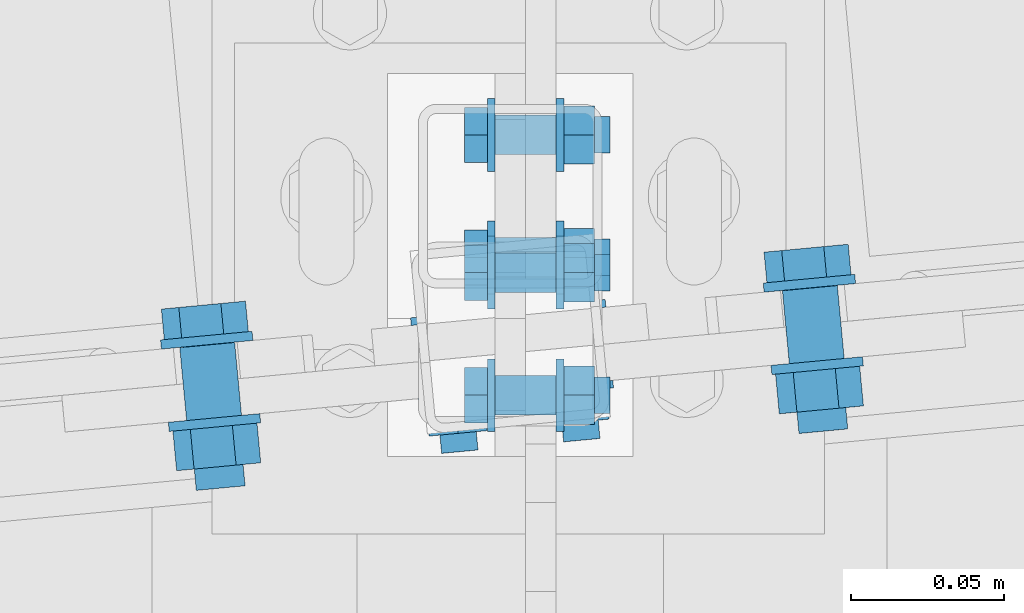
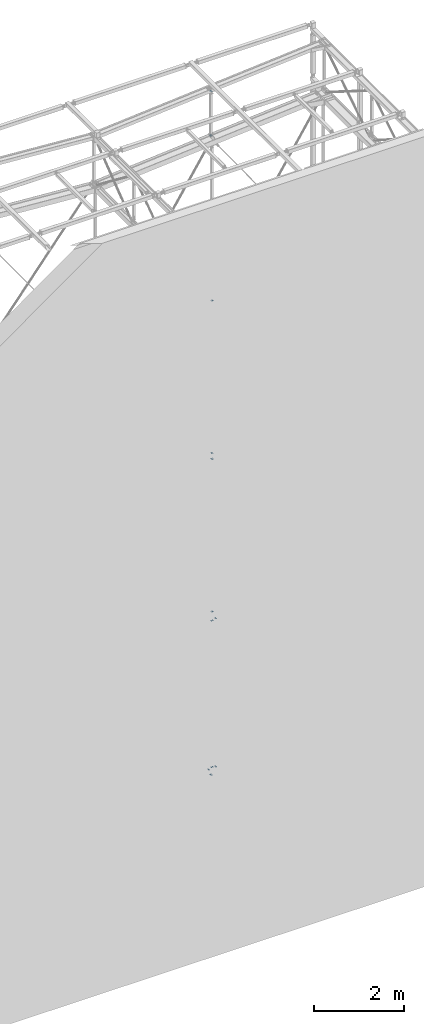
# One storey, part 263 of 271: 12 mechanical fasteners, 8 elements without a shape of their own.
"""IFC2X3 building model written with IfcOpenShell, lengths in millimetres."""

from ifc_helpers import new_model, si_unit, frame, origin_with_axes, origin_2d_with_axis, place, context, subcontext, project, spatial, polyline, circle, outline, extrude, source, transform, mapped, material, type_object, element, aggregate, save


model = new_model("IFC2X3")

# Units and contexts
model_context = context("Model", 3, precision=1e-05, world=origin_with_axes())
body_context = subcontext(model_context, "Body", "Model", "MODEL_VIEW")
ifc_project = project(units=[si_unit("LENGTHUNIT", "METRE", prefix="MILLI"), si_unit("AREAUNIT", "SQUARE_METRE"), si_unit("VOLUMEUNIT", "CUBIC_METRE"), si_unit("MASSUNIT", "GRAM", prefix="KILO"), si_unit("TIMEUNIT", "SECOND"), si_unit("PLANEANGLEUNIT", "RADIAN"), si_unit("SOLIDANGLEUNIT", "STERADIAN"), si_unit("THERMODYNAMICTEMPERATUREUNIT", "DEGREE_CELSIUS"), si_unit("LUMINOUSINTENSITYUNIT", "LUMEN")], contexts=[model_context])

# Site, building, storey
site_placement = place(None, origin_with_axes())
site = spatial("IfcSite", under=ifc_project, at=site_placement, Name="Undefined", CompositionType="ELEMENT")
building_placement = place(site_placement, origin_with_axes())
building = spatial("IfcBuilding", under=site, at=building_placement, Name="Undefined", CompositionType="ELEMENT")
storey_placement = place(building_placement, origin_with_axes())
storey = spatial("IfcBuildingStorey", under=building, at=storey_placement, Name="Undefined", CompositionType="ELEMENT", Elevation=0.0)

# Assembly, mechanical fastener
assembly_1_placement = place(storey_placement, origin_with_axes())
assembly_1 = element("IfcElementAssembly", 1, at=assembly_1_placement, inside=storey, AssemblyPlace="NOTDEFINED", PredefinedType="RIGID_FRAME")
ifc_material = material(Name="Undefined")
mechanical_fastener_type = type_object("IfcMechanicalFastenerType", Name="Bolt assembly")
shared_shape_1 = source(origin_with_axes(), body_context, "Body", "SweptSolid", [
    extrude(circle(Radius=6.5, at=origin_2d_with_axis()), frame((0.0, -5.1, 0.0), z_axis=(0.0, 1.0, 0.0), x_axis=(1.0, 0.0, 0.0)), (0.0, 0.0, 1.0), 10.1),
    extrude(circle(Radius=6.5, at=origin_2d_with_axis()), frame((0.0, -14.9000000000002, 0.0), z_axis=(0.0, 1.0, 0.0), x_axis=(1.0, 0.0, 0.0)), (0.0, 0.0, 1.0), 10.0),
    extrude(outline(polyline([(10.39230484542, 0.0), (5.19615242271, 9.00000000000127), (-5.19615242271, 9.00000000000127), (-10.39230484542, 0.0), (-5.19615242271, -9.00000000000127), (5.19615242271, -9.00000000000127), (10.39230484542, 0.0)])), frame((0.0, -25.0000000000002, 0.0), z_axis=(0.0, 1.0, 0.0), x_axis=(1.0, 0.0, 0.0)), (0.0, 0.0, 1.0), 7.5),
    extrude(circle(Radius=6.0, at=origin_2d_with_axis()), frame((0.0, -17.5000000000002, 0.0), z_axis=(0.0, 1.0, 0.0), x_axis=(1.0, 0.0, 0.0)), (0.0, 0.0, 1.0), 40.0),
    extrude(circle(Radius=12.0, at=origin_2d_with_axis()), frame((0.0, -17.5000000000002, 0.0), z_axis=(0.0, 1.0, 0.0), x_axis=(1.0, 0.0, 0.0)), (0.0, 0.0, 1.0), 2.5),
    extrude(circle(Radius=12.0, at=origin_2d_with_axis()), frame((0.0, 5.00000000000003, 0.0), z_axis=(0.0, 1.0, 0.0), x_axis=(1.0, 0.0, 0.0)), (0.0, 0.0, 1.0), 2.5),
    extrude(outline(polyline([(10.96965511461, 0.0), (5.484827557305, 9.50000000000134), (-5.484827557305, 9.50000000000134), (-10.96965511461, 0.0), (-5.484827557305, -9.50000000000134), (5.484827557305, -9.50000000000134), (10.96965511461, 0.0)])), frame((0.0, 7.50000000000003, 0.0), z_axis=(0.0, 1.0, 0.0), x_axis=(1.0, 0.0, 0.0)), (0.0, 0.0, 1.0), 10.0),
])
mechanical_fastener_1_placement = place(assembly_1_placement, frame((9538.37568709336, 4050.32498425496, 19926.399999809), z_axis=(0.0, -1.0, 0.0), x_axis=(0.0, 0.0, -1.0)))
mechanical_fastener_1 = element("IfcMechanicalFastener", 2, at=mechanical_fastener_1_placement, type_object=mechanical_fastener_type, material=ifc_material, Name="Bolt assembly", NominalDiameter=12.0, NominalLength=40.0, context=body_context, shape_type="MappedRepresentation", body=[
    mapped(shared_shape_1, transform((0.0, 0.0, -20.0))),
    mapped(shared_shape_1, transform((0.0, 0.0, 20.0))),
])

assembly_2_placement = place(storey_placement, origin_with_axes())
assembly_2 = element("IfcElementAssembly", 3, at=assembly_2_placement, inside=storey, AssemblyPlace="NOTDEFINED", PredefinedType="RIGID_FRAME")
mechanical_fastener_2_placement = place(assembly_2_placement, frame((9538.37568709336, 4050.32498425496, 1285.74999995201), z_axis=(0.0, -1.0, 0.0), x_axis=(0.0, 0.0, -1.0)))
mechanical_fastener_2 = element("IfcMechanicalFastener", 4, at=mechanical_fastener_2_placement, type_object=mechanical_fastener_type, material=ifc_material, Name="Bolt assembly", NominalDiameter=12.0, NominalLength=40.0, context=body_context, shape_type="MappedRepresentation", body=[
    mapped(shared_shape_1, transform((0.0, 0.0, -20.0))),
    mapped(shared_shape_1, transform((0.0, 0.0, 20.0))),
])
aggregate(assembly_2, [mechanical_fastener_2])

# Mechanical fastener
mechanical_fastener_3_placement = place(assembly_1_placement, frame((9538.37568709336, 4050.32498425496, 18722.949999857), z_axis=(0.0, 1.0, 0.0), x_axis=(0.0, 0.0, 1.0)))
mechanical_fastener_3 = element("IfcMechanicalFastener", 5, at=mechanical_fastener_3_placement, type_object=mechanical_fastener_type, material=ifc_material, Name="Bolt assembly", NominalDiameter=12.0, NominalLength=40.0, context=body_context, shape_type="MappedRepresentation", body=[
    mapped(shared_shape_1, transform((0.0, 0.0, -20.0))),
    mapped(shared_shape_1, transform((0.0, 0.0, 20.0))),
])

aggregate(assembly_1, [mechanical_fastener_1, mechanical_fastener_3])

# Assembly, mechanical fastener
assembly_3_placement = place(storey_placement, origin_with_axes())
assembly_3 = element("IfcElementAssembly", 6, at=assembly_3_placement, inside=storey, AssemblyPlace="NOTDEFINED", PredefinedType="RIGID_FRAME")
mechanical_fastener_4_placement = place(assembly_3_placement, frame((9538.37568709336, 4005.32498425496, 5762.94999985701), z_axis=(0.0, 1.0, 0.0), x_axis=(0.0, 0.0, 1.0)))
mechanical_fastener_4 = element("IfcMechanicalFastener", 7, at=mechanical_fastener_4_placement, type_object=mechanical_fastener_type, material=ifc_material, Name="Bolt assembly", NominalDiameter=12.0, NominalLength=40.0, context=body_context, shape_type="MappedRepresentation", body=[
    mapped(shared_shape_1, transform((0.0, 0.0, -20.0))),
    mapped(shared_shape_1, transform((0.0, 0.0, 20.0))),
])

# Assembly, mechanical fasteners
assembly_4_placement = place(storey_placement, origin_with_axes())
assembly_4 = element("IfcElementAssembly", 8, at=assembly_4_placement, inside=storey, AssemblyPlace="NOTDEFINED", PredefinedType="RIGID_FRAME")
mechanical_fastener_5_placement = place(assembly_4_placement, frame((9538.37568709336, 4005.32498425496, 14245.749999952), z_axis=(0.0, -1.0, 0.0), x_axis=(0.0, 0.0, -1.0)))
mechanical_fastener_5 = element("IfcMechanicalFastener", 9, at=mechanical_fastener_5_placement, type_object=mechanical_fastener_type, material=ifc_material, Name="Bolt assembly", NominalDiameter=12.0, NominalLength=40.0, context=body_context, shape_type="MappedRepresentation", body=[
    mapped(shared_shape_1, transform((0.0, 0.0, -20.0))),
    mapped(shared_shape_1, transform((0.0, 0.0, 20.0))),
])
mechanical_fastener_6_placement = place(assembly_4_placement, frame((9538.37568709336, 4005.32498425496, 10082.949999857), z_axis=(0.0, 1.0, 0.0), x_axis=(0.0, 0.0, 1.0)))
mechanical_fastener_6 = element("IfcMechanicalFastener", 10, at=mechanical_fastener_6_placement, type_object=mechanical_fastener_type, material=ifc_material, Name="Bolt assembly", NominalDiameter=12.0, NominalLength=40.0, context=body_context, shape_type="MappedRepresentation", body=[
    mapped(shared_shape_1, transform((0.0, 0.0, -20.0))),
    mapped(shared_shape_1, transform((0.0, 0.0, 20.0))),
])
aggregate(assembly_4, [mechanical_fastener_5, mechanical_fastener_6])

# Mechanical fastener
mechanical_fastener_7_placement = place(assembly_3_placement, frame((9538.37568709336, 4005.32498425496, 9925.74999995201), z_axis=(0.0, -1.0, 0.0), x_axis=(0.0, 0.0, -1.0)))
mechanical_fastener_7 = element("IfcMechanicalFastener", 11, at=mechanical_fastener_7_placement, type_object=mechanical_fastener_type, material=ifc_material, Name="Bolt assembly", NominalDiameter=12.0, NominalLength=40.0, context=body_context, shape_type="MappedRepresentation", body=[
    mapped(shared_shape_1, transform((0.0, 0.0, -20.0))),
    mapped(shared_shape_1, transform((0.0, 0.0, 20.0))),
])

aggregate(assembly_3, [mechanical_fastener_4, mechanical_fastener_7])

# Assembly, mechanical fasteners
assembly_5_placement = place(storey_placement, origin_with_axes())
assembly_5 = element("IfcElementAssembly", 12, at=assembly_5_placement, inside=storey, AssemblyPlace="NOTDEFINED", PredefinedType="RIGID_FRAME")
shared_shape_2 = source(origin_with_axes(), body_context, "Body", "SweptSolid", [
    extrude(circle(Radius=6.5, at=origin_2d_with_axis()), frame((0.0, -6.1, 0.0), z_axis=(0.0, 1.0, 0.0), x_axis=(1.0, 0.0, 0.0)), (0.0, 0.0, 1.0), 12.1),
    extrude(circle(Radius=6.5, at=origin_2d_with_axis()), frame((0.0, -17.9, 0.0), z_axis=(0.0, 1.0, 0.0), x_axis=(1.0, 0.0, 0.0)), (0.0, 0.0, 1.0), 12.0),
    extrude(outline(polyline([(10.39230484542, 0.0), (5.19615242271, 9.00000000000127), (-5.19615242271, 9.00000000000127), (-10.39230484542, 0.0), (-5.19615242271, -9.00000000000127), (5.19615242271, -9.00000000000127), (10.39230484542, 0.0)])), frame((0.0, -28.0, 0.0), z_axis=(0.0, 1.0, 0.0), x_axis=(1.0, 0.0, 0.0)), (0.0, 0.0, 1.0), 7.5),
    extrude(circle(Radius=6.0, at=origin_2d_with_axis()), frame((0.0, -20.5, 0.0), z_axis=(0.0, 1.0, 0.0), x_axis=(1.0, 0.0, 0.0)), (0.0, 0.0, 1.0), 45.0),
    extrude(circle(Radius=12.0, at=origin_2d_with_axis()), frame((0.0, -20.5, 0.0), z_axis=(0.0, 1.0, 0.0), x_axis=(1.0, 0.0, 0.0)), (0.0, 0.0, 1.0), 2.5),
    extrude(circle(Radius=12.0, at=origin_2d_with_axis()), frame((0.0, 6.0, 0.0), z_axis=(0.0, 1.0, 0.0), x_axis=(1.0, 0.0, 0.0)), (0.0, 0.0, 1.0), 2.5),
    extrude(outline(polyline([(10.96965511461, 0.0), (5.484827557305, 9.50000000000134), (-5.484827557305, 9.50000000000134), (-10.96965511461, 0.0), (-5.484827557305, -9.50000000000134), (5.484827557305, -9.50000000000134), (10.96965511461, 0.0)])), frame((0.0, 8.5, 0.0), z_axis=(0.0, 1.0, 0.0), x_axis=(1.0, 0.0, 0.0)), (0.0, 0.0, 1.0), 10.0),
])
mechanical_fastener_8_placement = place(assembly_5_placement, frame((9529.522898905, 3993.1645391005, 1527.66148972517), z_axis=(0.995579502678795, 0.0939225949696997, 0.0), x_axis=(0.0, 0.0, 1.0)))
mechanical_fastener_8 = element("IfcMechanicalFastener", 13, at=mechanical_fastener_8_placement, type_object=mechanical_fastener_type, material=ifc_material, Name="Bolt assembly", NominalDiameter=12.0, NominalLength=45.0, context=body_context, shape_type="MappedRepresentation", body=[
    mapped(shared_shape_2, transform((0.0, 0.0, -20.0))),
    mapped(shared_shape_2, transform((0.0, 0.0, 20.0))),
])
mechanical_fastener_9_placement = place(assembly_5_placement, frame((9529.52149816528, 3993.17938694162, 5521.03738093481), z_axis=(-0.995579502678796, -0.0939225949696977, 0.0), x_axis=(0.0, 0.0, -1.0)))
mechanical_fastener_9 = element("IfcMechanicalFastener", 14, at=mechanical_fastener_9_placement, type_object=mechanical_fastener_type, material=ifc_material, Name="Bolt assembly", NominalDiameter=12.0, NominalLength=45.0, context=body_context, shape_type="MappedRepresentation", body=[
    mapped(shared_shape_2, transform((0.0, 0.0, -20.0))),
    mapped(shared_shape_2, transform((0.0, 0.0, 20.0))),
])
aggregate(assembly_5, [mechanical_fastener_8, mechanical_fastener_9])

# Assembly, mechanical fastener
assembly_6_placement = place(storey_placement, origin_with_axes())
assembly_6 = element("IfcElementAssembly", 15, at=assembly_6_placement, inside=storey, AssemblyPlace="NOTDEFINED", PredefinedType="RIGID_FRAME")
shared_shape_3 = source(origin_with_axes(), body_context, "Body", "SweptSolid", [
    extrude(circle(Radius=9.0, at=origin_2d_with_axis()), frame((0.0, -6.10886097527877, 0.0), z_axis=(0.0, 1.0, 0.0), x_axis=(1.0, 0.0, 0.0)), (0.0, 0.0, 1.0), 12.1),
    extrude(circle(Radius=9.0, at=origin_2d_with_axis()), frame((0.0, -17.9116983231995, 0.0), z_axis=(0.0, 1.0, 0.0), x_axis=(1.0, 0.0, 0.0)), (0.0, 0.0, 1.0), 12.0),
    extrude(outline(polyline([(13.85640646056, 0.0), (6.92820323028, 12.0000000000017), (-6.92820323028, 12.0000000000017), (-13.85640646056, 0.0), (-6.92820323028, -12.0000000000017), (6.92820323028, -12.0000000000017), (13.85640646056, 0.0)])), frame((0.0, -31.0116983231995, 0.0), z_axis=(0.0, 1.0, 0.0), x_axis=(1.0, 0.0, 0.0)), (0.0, 0.0, 1.0), 10.0),
    extrude(circle(Radius=8.0, at=origin_2d_with_axis()), frame((0.0, -21.0116983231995, 0.0), z_axis=(0.0, 1.0, 0.0), x_axis=(1.0, 0.0, 0.0)), (0.0, 0.0, 1.0), 50.0),
    extrude(circle(Radius=15.0, at=origin_2d_with_axis()), frame((0.0, -21.0116983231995, 0.0), z_axis=(0.0, 1.0, 0.0), x_axis=(1.0, 0.0, 0.0)), (0.0, 0.0, 1.0), 3.0),
    extrude(circle(Radius=15.0, at=origin_2d_with_axis()), frame((0.0, 5.99113906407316, 0.0), z_axis=(0.0, 1.0, 0.0), x_axis=(1.0, 0.0, 0.0)), (0.0, 0.0, 1.0), 3.0),
    extrude(outline(polyline([(13.85640646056, 0.0), (6.92820323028, 12.0000000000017), (-6.92820323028, 12.0000000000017), (-13.85640646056, 0.0), (-6.92820323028, -12.0000000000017), (6.92820323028, -12.0000000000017), (13.85640646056, 0.0)])), frame((0.0, 8.99113906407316, 0.0), z_axis=(0.0, 1.0, 0.0), x_axis=(1.0, 0.0, 0.0)), (0.0, 0.0, 1.0), 13.0),
])
mechanical_fastener_10_placement = place(assembly_6_placement, frame((9627.87816684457, 4002.43443222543, 1503.87195734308), z_axis=(0.81251863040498, 0.0766527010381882, -0.57787354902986), x_axis=(0.575326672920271, 0.0541946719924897, 0.816126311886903)))
mechanical_fastener_10 = element("IfcMechanicalFastener", 16, at=mechanical_fastener_10_placement, type_object=mechanical_fastener_type, material=ifc_material, Name="Bolt assembly", NominalDiameter=16.0, NominalLength=50.0, context=body_context, shape_type="MappedRepresentation", body=[
    mapped(shared_shape_3, transform((0.0, 0.0, 0.0))),
])
aggregate(assembly_6, [mechanical_fastener_10])

assembly_7_placement = place(storey_placement, origin_with_axes())
assembly_7 = element("IfcElementAssembly", 17, at=assembly_7_placement, inside=storey, AssemblyPlace="NOTDEFINED", PredefinedType="RIGID_FRAME")
mechanical_fastener_11_placement = place(assembly_7_placement, frame((9627.87756682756, 4002.4493557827, 5544.82690656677), z_axis=(-0.812518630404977, -0.0766527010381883, -0.577873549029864), x_axis=(0.575326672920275, 0.0541946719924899, -0.8161263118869)))
mechanical_fastener_11 = element("IfcMechanicalFastener", 18, at=mechanical_fastener_11_placement, type_object=mechanical_fastener_type, material=ifc_material, Name="Bolt assembly", NominalDiameter=16.0, NominalLength=50.0, context=body_context, shape_type="MappedRepresentation", body=[
    mapped(shared_shape_3, transform((0.0, 0.0, 0.0))),
])
aggregate(assembly_7, [mechanical_fastener_11])

assembly_8_placement = place(storey_placement, origin_with_axes())
assembly_8 = element("IfcElementAssembly", 19, at=assembly_8_placement, inside=storey, AssemblyPlace="NOTDEFINED", PredefinedType="RIGID_FRAME")
shared_shape_4 = source(origin_with_axes(), body_context, "Body", "SweptSolid", [
    extrude(circle(Radius=9.0, at=origin_2d_with_axis()), frame((0.0, -6.108183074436, 0.0), z_axis=(0.0, 1.0, 0.0), x_axis=(1.0, 0.0, 0.0)), (0.0, 0.0, 1.0), 12.1),
    extrude(circle(Radius=9.0, at=origin_2d_with_axis()), frame((0.0, -17.9108111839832, 0.0), z_axis=(0.0, 1.0, 0.0), x_axis=(1.0, 0.0, 0.0)), (0.0, 0.0, 1.0), 12.0),
    extrude(outline(polyline([(13.85640646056, 0.0), (6.92820323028, 12.0000000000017), (-6.92820323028, 12.0000000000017), (-13.85640646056, 0.0), (-6.92820323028, -12.0000000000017), (6.92820323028, -12.0000000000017), (13.85640646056, 0.0)])), frame((0.0, -31.0108111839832, 0.0), z_axis=(0.0, 1.0, 0.0), x_axis=(1.0, 0.0, 0.0)), (0.0, 0.0, 1.0), 10.0),
    extrude(circle(Radius=8.0, at=origin_2d_with_axis()), frame((0.0, -21.0108111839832, 0.0), z_axis=(0.0, 1.0, 0.0), x_axis=(1.0, 0.0, 0.0)), (0.0, 0.0, 1.0), 50.0),
    extrude(circle(Radius=15.0, at=origin_2d_with_axis()), frame((0.0, -21.0108111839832, 0.0), z_axis=(0.0, 1.0, 0.0), x_axis=(1.0, 0.0, 0.0)), (0.0, 0.0, 1.0), 3.0),
    extrude(circle(Radius=15.0, at=origin_2d_with_axis()), frame((0.0, 5.99181695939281, 0.0), z_axis=(0.0, 1.0, 0.0), x_axis=(1.0, 0.0, 0.0)), (0.0, 0.0, 1.0), 3.0),
    extrude(outline(polyline([(13.85640646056, 0.0), (6.92820323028, 12.0000000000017), (-6.92820323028, 12.0000000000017), (-13.85640646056, 0.0), (-6.92820323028, -12.0000000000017), (6.92820323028, -12.0000000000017), (13.85640646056, 0.0)])), frame((0.0, 8.99181695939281, 0.0), z_axis=(0.0, 1.0, 0.0), x_axis=(1.0, 0.0, 0.0)), (0.0, 0.0, 1.0), 13.0),
])
mechanical_fastener_12_placement = place(assembly_8_placement, frame((9431.12186995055, 3983.87320374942, 1502.24120760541), z_axis=(0.809177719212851, 0.0763375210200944, 0.58258390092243), x_axis=(-0.580001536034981, -0.0547925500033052, 0.812770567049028)))
mechanical_fastener_12 = element("IfcMechanicalFastener", 20, at=mechanical_fastener_12_placement, type_object=mechanical_fastener_type, material=ifc_material, Name="Bolt assembly", NominalDiameter=16.0, NominalLength=50.0, context=body_context, shape_type="MappedRepresentation", body=[
    mapped(shared_shape_4, transform((0.0, 0.0, 0.0))),
])
aggregate(assembly_8, [mechanical_fastener_12])

save(model, "model.ifc")
